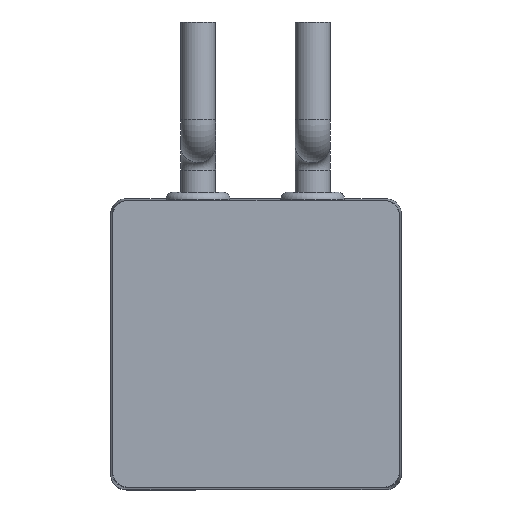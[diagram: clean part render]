
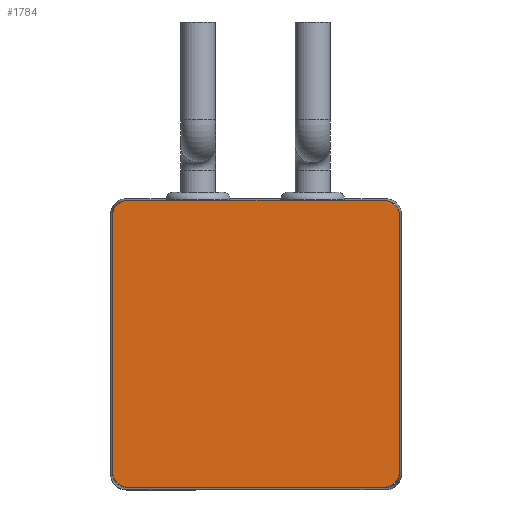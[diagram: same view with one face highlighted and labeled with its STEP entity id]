
A CAD part, top view. The second image highlights one B-rep face of the part: STEP entity #1784.
In plain terms, the highlighted planar face has unit normal (0, 0, 1).
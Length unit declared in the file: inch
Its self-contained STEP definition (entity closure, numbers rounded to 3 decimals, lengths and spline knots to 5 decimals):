
#1308=CARTESIAN_POINT('',(-1.0065,1.125,4.646));
#1309=VERTEX_POINT('',#1308);
#1316=CARTESIAN_POINT('',(1.0065,1.125,4.646));
#1317=VERTEX_POINT('',#1316);
#1318=CARTESIAN_POINT('',(-1.0065,1.125,4.646));
#1319=DIRECTION('',(1.0,0.0,0.0));
#1320=VECTOR('',#1319,2.013);
#1321=LINE('',#1318,#1320);
#1322=EDGE_CURVE('',#1309,#1317,#1321,.T.);
#1509=CARTESIAN_POINT('',(1.125,-1.0065,4.646));
#1510=VERTEX_POINT('',#1509);
#1511=CARTESIAN_POINT('',(1.0065,-1.125,4.646));
#1512=VERTEX_POINT('',#1511);
#1513=CARTESIAN_POINT('',(1.0065,-1.0065,4.646));
#1514=DIRECTION('',(0.0,0.0,-1.));
#1515=DIRECTION('',(0.707,-0.707,0.0));
#1516=AXIS2_PLACEMENT_3D('',#1513,#1514,#1515);
#1517=CIRCLE('',#1516,0.1185);
#1518=EDGE_CURVE('',#1510,#1512,#1517,.T.);
#1609=CARTESIAN_POINT('',(-1.0065,-1.125,4.646));
#1610=VERTEX_POINT('',#1609);
#1611=CARTESIAN_POINT('',(1.0065,-1.125,4.646));
#1612=DIRECTION('',(-1.0,0.0,0.0));
#1613=VECTOR('',#1612,2.013);
#1614=LINE('',#1611,#1613);
#1615=EDGE_CURVE('',#1512,#1610,#1614,.T.);
#1648=CARTESIAN_POINT('',(-1.125,-1.0065,4.646));
#1649=VERTEX_POINT('',#1648);
#1650=CARTESIAN_POINT('',(-1.0065,-1.0065,4.646));
#1651=DIRECTION('',(0.0,0.0,-1.));
#1652=DIRECTION('',(-0.707,-0.707,0.0));
#1653=AXIS2_PLACEMENT_3D('',#1650,#1651,#1652);
#1654=CIRCLE('',#1653,0.1185);
#1655=EDGE_CURVE('',#1610,#1649,#1654,.T.);
#1731=CARTESIAN_POINT('',(-1.125,1.0065,4.646));
#1732=VERTEX_POINT('',#1731);
#1733=CARTESIAN_POINT('',(-1.0065,1.0065,4.646));
#1734=DIRECTION('',(0.0,0.0,-1.));
#1735=DIRECTION('',(-0.707,0.707,0.0));
#1736=AXIS2_PLACEMENT_3D('',#1733,#1734,#1735);
#1737=CIRCLE('',#1736,0.1185);
#1738=EDGE_CURVE('',#1732,#1309,#1737,.T.);
#1751=CARTESIAN_POINT('',(0.0,0.,4.646));
#1752=DIRECTION('',(0.0,0.0,1.0));
#1753=DIRECTION('',(1.0,0.0,0.0));
#1754=AXIS2_PLACEMENT_3D('',#1751,#1752,#1753);
#1755=PLANE('',#1754);
#1756=ORIENTED_EDGE('',*,*,#1518,.F.);
#1757=CARTESIAN_POINT('',(1.125,1.0065,4.646));
#1758=VERTEX_POINT('',#1757);
#1759=CARTESIAN_POINT('',(1.125,1.0065,4.646));
#1760=DIRECTION('',(0.0,-1.0,0.0));
#1761=VECTOR('',#1760,2.013);
#1762=LINE('',#1759,#1761);
#1763=EDGE_CURVE('',#1758,#1510,#1762,.T.);
#1764=ORIENTED_EDGE('',*,*,#1763,.F.);
#1765=CARTESIAN_POINT('',(1.0065,1.0065,4.646));
#1766=DIRECTION('',(0.0,0.0,-1.));
#1767=DIRECTION('',(0.707,0.707,0.0));
#1768=AXIS2_PLACEMENT_3D('',#1765,#1766,#1767);
#1769=CIRCLE('',#1768,0.1185);
#1770=EDGE_CURVE('',#1317,#1758,#1769,.T.);
#1771=ORIENTED_EDGE('',*,*,#1770,.F.);
#1772=ORIENTED_EDGE('',*,*,#1322,.F.);
#1773=ORIENTED_EDGE('',*,*,#1738,.F.);
#1774=CARTESIAN_POINT('',(-1.125,-1.0065,4.646));
#1775=DIRECTION('',(0.0,1.0,0.0));
#1776=VECTOR('',#1775,2.013);
#1777=LINE('',#1774,#1776);
#1778=EDGE_CURVE('',#1649,#1732,#1777,.T.);
#1779=ORIENTED_EDGE('',*,*,#1778,.F.);
#1780=ORIENTED_EDGE('',*,*,#1655,.F.);
#1781=ORIENTED_EDGE('',*,*,#1615,.F.);
#1782=EDGE_LOOP('',(#1756,#1764,#1771,#1772,#1773,#1779,#1780,#1781));
#1783=FACE_OUTER_BOUND('',#1782,.T.);
#1784=ADVANCED_FACE('',(#1783),#1755,.T.);
